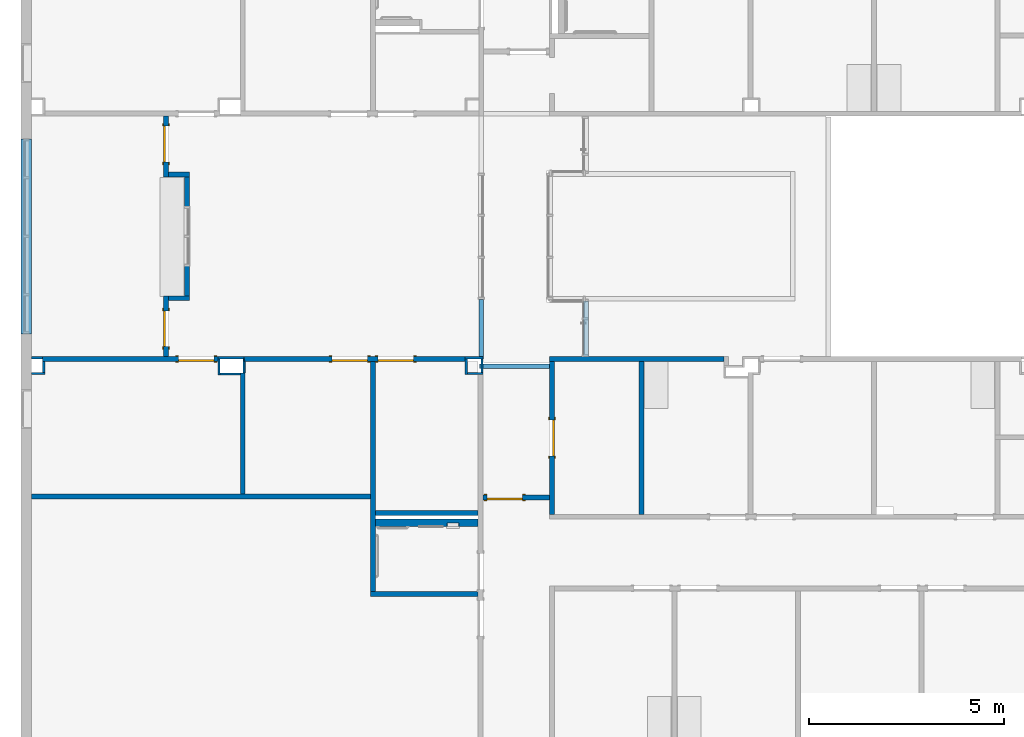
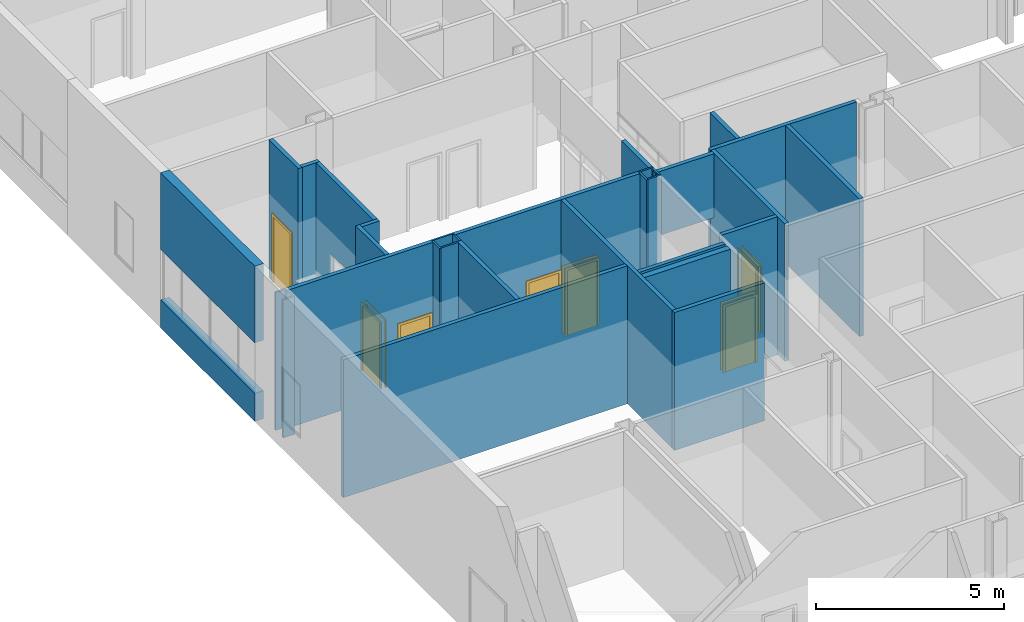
# One storey, part 26 of 82: 33 walls, 7 doors, 9 openings.
"""IFC2X3 building model written with IfcOpenShell, lengths in metres."""

from ifc_helpers import new_model, entity, si_unit, converted_unit, frame, frame_2d, origin, origin_2d_with_axis, place, context, project, spatial, polyline, rectangle, outline, extrude, source, transform, mapped, material, layer, layer_set, layer_usage, type_object, type_shapes, element, fill, save


model = new_model("IFC2X3")

# Units and contexts
model_context = context("Model", 3, precision=1e-09, world=origin())
plan_context = context("Plan", 3, precision=1e-09, world=origin())
ifc_project = project(units=[si_unit("LENGTHUNIT", "METRE"), si_unit("AREAUNIT", "SQUARE_METRE"), si_unit("VOLUMEUNIT", "CUBIC_METRE"), converted_unit("PLANEANGLEUNIT", "DEGREE", entity("IfcRatioMeasure", 0.01745329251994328), si_unit("PLANEANGLEUNIT", "RADIAN"), dimensions=[0, 0, 0, 0, 0, 0, 0]), si_unit("TIMEUNIT", "SECOND")], contexts=[model_context, plan_context])

# Site, building, storey
site_placement = place(None, origin())
site = spatial("IfcSite", under=ifc_project, at=site_placement, Name="Default", CompositionType="ELEMENT")
building_placement = place(site_placement, origin())
building = spatial("IfcBuilding", under=site, at=building_placement, CompositionType="ELEMENT")
storey_placement = place(building_placement, origin())
storey = spatial("IfcBuildingStorey", under=building, at=storey_placement, Name="First Floor", CompositionType="ELEMENT", Elevation=-3.531500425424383e-13)

# Wall, opening, door
ifc_material_1 = material(Name="Plasterboard")
ifc_layer_1 = layer(ifc_material_1, 0.016)
ifc_material_2 = material(Name="Metal - Stud Layer")
ifc_layer_2 = layer(ifc_material_2, 0.092)
ifc_layer_3 = layer(ifc_material_1, 0.016)
ifc_layer_set_1 = layer_set([ifc_layer_1, ifc_layer_2, ifc_layer_3], Name="Basic Wall:Interior - Partition (92mm Stud)")
ifc_layer_usage_1 = layer_usage(ifc_layer_set_1, "AXIS2", "NEGATIVE", 0.062)
wall_1_placement = place(storey_placement, frame((-51.72400000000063, 28.54799999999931, 0.0)))
wall_1 = element("IfcWallStandardCase", 1, at=wall_1_placement, inside=storey, material=ifc_layer_usage_1, Name="Basic Wall:Interior - Partition (92mm Stud)", ObjectType="Basic Wall:Interior - Partition (92mm Stud)", context=model_context, shape_type="SweptSolid", body=[
    extrude(rectangle(XDim=4.494000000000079, YDim=0.1239999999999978, at=frame_2d((2.247000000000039, 0.0), x_axis=(-1.0, 0.0))), origin(), (0.0, 0.0, 1.0), 4.46800000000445),
])
opening_1_placement = place(wall_1_placement, frame((4.394000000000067, 0.06199999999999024, 0.0)))
opening_1 = element("IfcOpeningElement", 2, at=opening_1_placement, cuts=wall_1, Name="M_Single-Flush:0915 x 2134mm:0915 x 2134mm:1", ObjectType="Opening", context=model_context, shape_type="SweptSolid", body=[
    extrude(rectangle(XDim=0.9149999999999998, YDim=2.134, at=frame_2d((1.067, 0.4574999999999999), x_axis=(0.0, -1.0))), frame((0.0, 0.0, 0.0), z_axis=(0.0, -1.0, 0.0), x_axis=(0.0, 0.0, 1.0)), (0.0, 0.0, 1.0), 0.124),
])
door_style_1 = type_object("IfcDoorStyle", Name="0915 x 2134mm", ConstructionType="NOTDEFINED", OperationType="SINGLE_SWING_LEFT", ParameterTakesPrecedence=False, Sizeable=False)
shared_shape_1 = source(origin(), model_context, "Body", "SweptSolid", [
    extrude(outline(polyline([(-0.5335, -1.123999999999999), (0.5334999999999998, -1.123999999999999), (0.5334999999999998, 1.086), (0.4574999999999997, 1.086), (0.4574999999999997, -1.048000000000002), (-0.4574999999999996, -1.048000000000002), (-0.4574999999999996, 1.086), (-0.5335, 1.086), (-0.5335, -1.123999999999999)])), frame((0.4575000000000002, 0.1489999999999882, 1.086), z_axis=(0.0, -1.0, 0.0), x_axis=(-1.0, 0.0, 0.0)), (0.0, 0.0, 1.0), 0.02499999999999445),
    extrude(outline(polyline([(-1.123999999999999, -0.5334999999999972), (1.085999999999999, -0.5334999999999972), (1.085999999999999, -0.4575000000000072), (-1.048, -0.4575000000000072), (-1.048, 0.4575000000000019), (1.085999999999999, 0.4575000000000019), (1.085999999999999, 0.5335000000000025), (-1.123999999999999, 0.5335000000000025), (-1.123999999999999, -0.5334999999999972)])), frame((0.4574999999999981, 0.0, 1.085999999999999), z_axis=(0.0, -1.0, 0.0), x_axis=(0.0, 0.0, -1.0)), (0.0, 0.0, 1.0), 0.02500000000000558),
    extrude(rectangle(XDim=0.9149999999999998, YDim=0.051, at=origin_2d_with_axis()), frame((0.4575000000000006, 0.09849999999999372, 0.0)), (0.0, 0.0, 1.0), 2.133999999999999),
])
type_shapes(door_style_1, [shared_shape_1])
door_1_placement = place(opening_1_placement, frame((0.0, 0.0, 0.0), z_axis=(0.0, 0.0, 1.0), x_axis=(-1.0, 0.0, 0.0)))
door_1 = element("IfcDoor", 3, at=door_1_placement, inside=storey, type_object=door_style_1, Name="M_Single-Flush:0915 x 2134mm:0915 x 2134mm", ObjectType="0915 x 2134mm", OverallHeight=2.134, OverallWidth=0.9149999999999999, context=model_context, shape_type="MappedRepresentation", body=[
    mapped(shared_shape_1, transform((0.0, 0.0, 0.0), scale=1.0)),
])
fill(opening_1, door_1)

# Wall
wall_2_placement = place(storey_placement, frame((-43.24800000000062, 22.58399999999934, 0.0), z_axis=(0.0, 0.0, 1.0), x_axis=(0.0, 1.0, 0.0)))
element("IfcWallStandardCase", 4, at=wall_2_placement, inside=storey, material=ifc_layer_usage_1, Name="Basic Wall:Interior - Partition (92mm Stud)", ObjectType="Basic Wall:Interior - Partition (92mm Stud)", context=model_context, shape_type="SweptSolid", body=[
    extrude(rectangle(XDim=5.901999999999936, YDim=0.1240000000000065, at=frame_2d((2.950999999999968, 0.0), x_axis=(-1.0, 0.0))), origin(), (0.0, 0.0, 1.0), 4.468000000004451),
])

# Wall, openings, doors
wall_3_placement = place(storey_placement, frame((-46.55700000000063, 28.54799999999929, 0.0)))
wall_3 = element("IfcWallStandardCase", 5, at=wall_3_placement, inside=storey, material=ifc_layer_usage_1, Name="Basic Wall:Interior - Partition (92mm Stud)", ObjectType="Basic Wall:Interior - Partition (92mm Stud)", context=model_context, shape_type="SweptSolid", body=[
    extrude(rectangle(XDim=5.670499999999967, YDim=0.1239999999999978, at=frame_2d((2.835249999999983, 0.0), x_axis=(-1.0, 0.0))), origin(), (0.0, 0.0, 1.0), 4.468000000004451),
])
opening_2_placement = place(wall_3_placement, frame((4.346000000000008, 0.06199999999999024, 0.0)))
opening_2 = element("IfcOpeningElement", 6, at=opening_2_placement, cuts=wall_3, Name=":1", ObjectType="Opening", context=model_context, shape_type="SweptSolid", body=[
    extrude(rectangle(XDim=0.9149999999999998, YDim=2.134, at=frame_2d((1.067, 0.4575), x_axis=(0.0, 1.0))), frame((0.0, 0.0, 0.0), z_axis=(0.0, -1.0, 0.0), x_axis=(0.0, 0.0, 1.0)), (0.0, 0.0, 1.0), 0.124),
])
opening_3_placement = place(wall_3_placement, frame((3.167000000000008, 0.06199999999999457, 0.0)))
opening_3 = element("IfcOpeningElement", 7, at=opening_3_placement, cuts=wall_3, Name=":1", ObjectType="Opening", context=model_context, shape_type="SweptSolid", body=[
    extrude(rectangle(XDim=0.9149999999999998, YDim=2.134, at=frame_2d((1.067, 0.4574999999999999), x_axis=(0.0, -1.0))), frame((0.0, 0.0, 0.0), z_axis=(0.0, -1.0, 0.0), x_axis=(0.0, 0.0, 1.0)), (0.0, 0.0, 1.0), 0.124),
])
door_style_2 = type_object("IfcDoorStyle", Name="0915 x 2134mm", ConstructionType="NOTDEFINED", OperationType="SINGLE_SWING_RIGHT", ParameterTakesPrecedence=False, Sizeable=False)
shared_shape_2 = source(origin(), model_context, "Body", "SweptSolid", [
    extrude(outline(polyline([(-0.5335, -1.123999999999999), (0.5334999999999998, -1.123999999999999), (0.5334999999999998, 1.086), (0.4574999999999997, 1.086), (0.4574999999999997, -1.048000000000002), (-0.4574999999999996, -1.048000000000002), (-0.4574999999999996, 1.086), (-0.5335, 1.086), (-0.5335, -1.123999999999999)])), frame((0.4575000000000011, 0.1239999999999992, 1.086), z_axis=(0.0, 1.0, 0.0), x_axis=(1.0, 0.0, 0.0)), (0.0, 0.0, 1.0), 0.02499999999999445),
    extrude(outline(polyline([(-1.123999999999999, -0.5334999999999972), (1.085999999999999, -0.5334999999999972), (1.085999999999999, -0.4575000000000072), (-1.048, -0.4575000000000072), (-1.048, 0.4575000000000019), (1.085999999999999, 0.4575000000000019), (1.085999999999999, 0.5335000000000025), (-1.123999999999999, 0.5335000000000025), (-1.123999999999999, -0.5334999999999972)])), frame((0.4575000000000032, -0.02500000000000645, 1.085999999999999), z_axis=(0.0, 1.0, 0.0), x_axis=(0.0, 0.0, -1.0)), (0.0, 0.0, 1.0), 0.02500000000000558),
    extrude(rectangle(XDim=0.051, YDim=0.9149999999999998, at=origin_2d_with_axis()), frame((0.4575000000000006, 0.09849999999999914, 0.0), z_axis=(0.0, 0.0, 1.0), x_axis=(0.0, 1.0, 0.0)), (0.0, 0.0, 1.0), 2.133999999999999),
])
type_shapes(door_style_2, [shared_shape_2])
door_2_placement = place(opening_2_placement, frame((0.0, 0.0, 0.0), z_axis=(0.0, 0.0, 1.0), x_axis=(-1.0, 0.0, 0.0)))
door_2 = element("IfcDoor", 8, at=door_2_placement, inside=storey, type_object=door_style_2, Name="M_Single-Flush:0915 x 2134mm:0915 x 2134mm", ObjectType="0915 x 2134mm", OverallHeight=2.134, OverallWidth=0.9149999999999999, context=model_context, shape_type="MappedRepresentation", body=[
    mapped(shared_shape_2, transform((0.0, 0.0, 0.0), scale=1.0)),
])
fill(opening_2, door_2)
door_3_placement = place(opening_3_placement, frame((0.0, 0.0, 0.0), z_axis=(0.0, 0.0, 1.0), x_axis=(-1.0, 0.0, 0.0)))
door_3 = element("IfcDoor", 9, at=door_3_placement, inside=storey, type_object=door_style_1, Name="M_Single-Flush:0915 x 2134mm:0915 x 2134mm", ObjectType="0915 x 2134mm", OverallHeight=2.134, OverallWidth=0.9149999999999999, context=model_context, shape_type="MappedRepresentation", body=[
    mapped(shared_shape_1, transform((0.0, 0.0, 0.0), scale=1.0)),
])
fill(opening_3, door_3)

# Wall, opening, door
wall_4_placement = place(storey_placement, frame((-38.65800000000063, 24.56399999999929, 0.0), z_axis=(0.0, 0.0, 1.0), x_axis=(0.0, 1.0, 0.0)))
wall_4 = element("IfcWallStandardCase", 10, at=wall_4_placement, inside=storey, material=ifc_layer_usage_1, Name="Basic Wall:Interior - Partition (92mm Stud)", ObjectType="Basic Wall:Interior - Partition (92mm Stud)", context=model_context, shape_type="SweptSolid", body=[
    extrude(rectangle(XDim=3.922000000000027, YDim=0.1239999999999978, at=frame_2d((1.961000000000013, 0.0), x_axis=(-1.0, 0.0))), origin(), (0.0, 0.0, 1.0), 4.46800000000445),
])
opening_4_placement = place(wall_4_placement, frame((2.418500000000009, 0.06199999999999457, 0.0)))
opening_4 = element("IfcOpeningElement", 11, at=opening_4_placement, cuts=wall_4, Name="M_Single-Flush:0915 x 2134mm:0915 x 2134mm:1", ObjectType="Opening", context=model_context, shape_type="SweptSolid", body=[
    extrude(rectangle(XDim=0.9149999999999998, YDim=2.134, at=frame_2d((1.067, 0.4575), x_axis=(0.0, 1.0))), frame((0.0, 0.0, 0.0), z_axis=(0.0, -1.0, 0.0), x_axis=(0.0, 0.0, 1.0)), (0.0, 0.0, 1.0), 0.124),
])
door_4_placement = place(opening_4_placement, frame((0.0, 0.0, 0.0), z_axis=(0.0, 0.0, 1.0), x_axis=(-1.0, 0.0, 0.0)))
door_4 = element("IfcDoor", 12, at=door_4_placement, inside=storey, type_object=door_style_2, Name="M_Single-Flush:0915 x 2134mm:0915 x 2134mm", ObjectType="0915 x 2134mm", OverallHeight=2.134, OverallWidth=0.9149999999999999, context=model_context, shape_type="MappedRepresentation", body=[
    mapped(shared_shape_2, transform((0.0, 0.0, 0.0), scale=1.0)),
])
fill(opening_4, door_4)

# Walls
wall_5_placement = place(storey_placement, frame((-38.72000000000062, 28.54799999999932, 0.0)))
element("IfcWallStandardCase", 13, at=wall_5_placement, inside=storey, material=ifc_layer_usage_1, Name="Basic Wall:Interior - Partition (92mm Stud)", ObjectType="Basic Wall:Interior - Partition (92mm Stud)", context=model_context, shape_type="SweptSolid", body=[
    extrude(rectangle(XDim=4.465999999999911, YDim=0.1239999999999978, at=frame_2d((2.232999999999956, 0.0), x_axis=(-1.0, 0.0))), origin(), (0.0, 0.0, 1.0), 4.46800000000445),
])
ifc_material_3 = material(Name="Insulation - Insulated Panel")
ifc_layer_4 = layer(ifc_material_3, 0.042)
ifc_material_4 = material(Name="Metal - Firring")
ifc_layer_5 = layer(ifc_material_4, 0.038)
ifc_material_5 = material(Name="Wood - Sheathing - plywood")
ifc_layer_6 = layer(ifc_material_5, 0.019)
ifc_layer_7 = layer(ifc_material_2, 0.152)
ifc_layer_8 = layer(ifc_material_1, 0.016)
ifc_layer_set_2 = layer_set([ifc_layer_4, ifc_layer_5, ifc_layer_6, ifc_layer_7, ifc_layer_8], Name="Basic Wall:Exterior - Insul Panel on Mtl. Stud")
ifc_layer_usage_2 = layer_usage(ifc_layer_set_2, "AXIS2", "NEGATIVE", 0.1335)
wall_6_placement = place(storey_placement, frame((-52.14650000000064, 29.19495592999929, 0.0), z_axis=(0.0, 0.0, 1.0), x_axis=(0.0, 1.0, 0.0)))
element("IfcWallStandardCase", 14, at=wall_6_placement, inside=storey, material=ifc_layer_usage_2, Name="Basic Wall:Exterior - Insul Panel on Mtl. Stud", ObjectType="Basic Wall:Exterior - Insul Panel on Mtl. Stud", context=model_context, shape_type="SweptSolid", body=[
    extrude(rectangle(XDim=4.999999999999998, YDim=0.2670000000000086, at=frame_2d((2.499999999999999, 0.0), x_axis=(-1.0, 0.0))), origin(), (0.0, 0.0, 1.0), 0.905),
])
wall_7_placement = place(storey_placement, frame((-52.14650000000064, 29.19495592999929, 2.54), z_axis=(0.0, 0.0, 1.0), x_axis=(0.0, 1.0, 0.0)))
element("IfcWallStandardCase", 15, at=wall_7_placement, inside=storey, material=ifc_layer_usage_2, Name="Basic Wall:Exterior - Insul Panel on Mtl. Stud", ObjectType="Basic Wall:Exterior - Insul Panel on Mtl. Stud", context=model_context, shape_type="SweptSolid", body=[
    extrude(rectangle(XDim=4.999999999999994, YDim=0.2670000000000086, at=frame_2d((2.499999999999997, 0.0), x_axis=(-1.0, 0.0))), origin(), (0.0, 0.0, 1.0), 2.48700000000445),
])
wall_8_placement = place(storey_placement, frame((-43.31000000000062, 25.02199999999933, 0.0), z_axis=(0.0, 0.0, 1.0), x_axis=(-1.0, 0.0, 0.0)))
element("IfcWallStandardCase", 16, at=wall_8_placement, inside=storey, material=ifc_layer_usage_1, Name="Basic Wall:Interior - Partition (92mm Stud)", ObjectType="Basic Wall:Interior - Partition (92mm Stud)", context=model_context, shape_type="SweptSolid", body=[
    extrude(rectangle(XDim=8.703000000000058, YDim=0.1239999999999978, at=frame_2d((4.351500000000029, 0.0), x_axis=(-1.0, 0.0))), origin(), (0.0, 0.0, 1.0), 4.46800000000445),
])
wall_9_placement = place(storey_placement, frame((-46.59200000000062, 28.19599999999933, 0.0), z_axis=(0.0, 0.0, 1.0), x_axis=(0.0, -1.0, 0.0)))
element("IfcWallStandardCase", 17, at=wall_9_placement, inside=storey, material=ifc_layer_usage_1, Name="Basic Wall:Interior - Partition (92mm Stud)", ObjectType="Basic Wall:Interior - Partition (92mm Stud)", context=model_context, shape_type="SweptSolid", body=[
    extrude(rectangle(XDim=3.11199999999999, YDim=0.1240000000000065, at=frame_2d((1.555999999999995, 0.0), x_axis=(-1.0, 0.0))), origin(), (0.0, 0.0, 1.0), 4.468000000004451),
])
ifc_layer_9 = layer(ifc_material_2, 0.038)
ifc_layer_10 = layer(ifc_material_1, 0.016)
ifc_layer_set_3 = layer_set([ifc_layer_9, ifc_layer_10], Name="Basic Wall:Interior - Furring (38 mm Stud)")
ifc_layer_usage_3 = layer_usage(ifc_layer_set_3, "AXIS2", "NEGATIVE", 0.027)
wall_10_placement = place(storey_placement, frame((-40.45700000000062, 28.20399999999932, 0.0), z_axis=(0.0, 0.0, 1.0), x_axis=(0.0, 1.0, 0.0)))
element("IfcWallStandardCase", 18, at=wall_10_placement, inside=storey, material=ifc_layer_usage_3, Name="Basic Wall:Interior - Furring (38 mm Stud)", ObjectType="Basic Wall:Interior - Furring (38 mm Stud)", context=model_context, shape_type="SweptSolid", body=[
    extrude(rectangle(XDim=0.3519999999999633, YDim=0.05400000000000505, at=frame_2d((0.1759999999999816, 0.0), x_axis=(-1.0, 0.0))), origin(), (0.0, 0.0, 1.0), 4.46800000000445),
])
wall_11_placement = place(storey_placement, frame((-46.55700000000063, 28.19599999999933, 0.0), z_axis=(0.0, 0.0, 1.0), x_axis=(0.0, 1.0, 0.0)))
element("IfcWallStandardCase", 19, at=wall_11_placement, inside=storey, material=ifc_layer_usage_3, Name="Basic Wall:Interior - Furring (38 mm Stud)", ObjectType="Basic Wall:Interior - Furring (38 mm Stud)", context=model_context, shape_type="SweptSolid", body=[
    extrude(outline(polyline([(0.2899999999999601, -0.02699999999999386), (0.2899999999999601, 0.0), (0.3599999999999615, 0.0), (0.3599999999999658, 0.02700000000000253), (0.0, 0.02700000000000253), (0.0, -0.02699999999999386), (0.2899999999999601, -0.02699999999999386)])), origin(), (0.0, 0.0, 1.0), 4.468000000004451),
])
wall_12_placement = place(storey_placement, frame((-46.55700000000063, 28.5829999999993, 0.0), z_axis=(0.0, 0.0, 1.0), x_axis=(-1.0, 0.0, 0.0)))
element("IfcWallStandardCase", 20, at=wall_12_placement, inside=storey, material=ifc_layer_usage_3, Name="Basic Wall:Interior - Furring (38 mm Stud)", ObjectType="Basic Wall:Interior - Furring (38 mm Stud)", context=model_context, shape_type="SweptSolid", body=[
    extrude(rectangle(XDim=0.6729999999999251, YDim=0.05399999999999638, at=frame_2d((0.3364999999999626, 0.0), x_axis=(-1.0, 0.0))), origin(), (0.0, 0.0, 1.0), 4.468000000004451),
])

# Wall, opening, door
wall_13_placement = place(storey_placement, frame((-40.43000000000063, 24.99639999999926, 0.0)))
wall_13 = element("IfcWallStandardCase", 21, at=wall_13_placement, inside=storey, material=ifc_layer_usage_1, Name="Basic Wall:Interior - Partition (92mm Stud)", ObjectType="Basic Wall:Interior - Partition (92mm Stud)", context=model_context, shape_type="SweptSolid", body=[
    extrude(rectangle(XDim=1.71000000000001, YDim=0.1239999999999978, at=frame_2d((0.8550000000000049, 0.0), x_axis=(-1.0, 0.0))), origin(), (0.0, 0.0, 1.0), 4.46800000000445),
])
opening_5_placement = place(wall_13_placement, frame((1.015000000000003, 0.06200000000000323, 0.0)))
opening_5 = element("IfcOpeningElement", 22, at=opening_5_placement, cuts=wall_13, Name="M_Single-Flush:0915 x 2134mm:0915 x 2134mm:1", ObjectType="Opening", context=model_context, shape_type="SweptSolid", body=[
    extrude(rectangle(XDim=0.9149999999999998, YDim=2.134, at=frame_2d((1.067, 0.4575), x_axis=(0.0, 1.0))), frame((0.0, 0.0, 0.0), z_axis=(0.0, -1.0, 0.0), x_axis=(0.0, 0.0, 1.0)), (0.0, 0.0, 1.0), 0.124),
])
door_5_placement = place(opening_5_placement, frame((0.0, 0.0, 0.0), z_axis=(0.0, 0.0, 1.0), x_axis=(-1.0, 0.0, 0.0)))
door_5 = element("IfcDoor", 23, at=door_5_placement, inside=storey, type_object=door_style_2, Name="M_Single-Flush:0915 x 2134mm:0915 x 2134mm", ObjectType="0915 x 2134mm", OverallHeight=2.134, OverallWidth=0.9149999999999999, context=model_context, shape_type="MappedRepresentation", body=[
    mapped(shared_shape_2, transform((0.0, 0.0, 0.0), scale=1.0)),
])
fill(opening_5, door_5)

# Wall, opening
wall_14_placement = place(storey_placement, frame((-48.02299986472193, 30.16999999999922, 0.0), z_axis=(0.0, 0.0, 1.0), x_axis=(0.0, 1.0, 0.0)))
wall_14 = element("IfcWallStandardCase", 24, at=wall_14_placement, inside=storey, material=ifc_layer_usage_1, Name="Basic Wall:Interior - Partition (92mm Stud)", ObjectType="Basic Wall:Interior - Partition (92mm Stud)", context=model_context, shape_type="SweptSolid", body=[
    extrude(rectangle(XDim=3.05, YDim=0.1240000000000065, at=frame_2d((1.525, 0.0), x_axis=(-1.0, 0.0))), origin(), (0.0, 0.0, 1.0), 4.46800000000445),
])
opening_6_placement = place(wall_14_placement, origin())
element("IfcOpeningElement", 25, at=opening_6_placement, cuts=wall_14, ObjectType="Opening", context=model_context, shape_type="SweptSolid", body=[
    extrude(rectangle(XDim=0.9999999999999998, YDim=1.534000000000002, at=frame_2d((0.0, 0.0), x_axis=(0.0, 1.0))), frame((1.527000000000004, -0.2143999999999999, 1.5), z_axis=(0.0, 1.0, 0.0), x_axis=(-1.0, 0.0, 0.0)), (0.0, 0.0, 1.0), 0.4287999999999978),
])

# Walls
wall_15_placement = place(storey_placement, frame((-40.83250000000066, 28.17699999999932, 0.0)))
element("IfcWallStandardCase", 26, at=wall_15_placement, inside=storey, material=ifc_layer_usage_3, Name="Basic Wall:Interior - Furring (38 mm Stud)", ObjectType="Basic Wall:Interior - Furring (38 mm Stud)", context=model_context, shape_type="SweptSolid", body=[
    extrude(rectangle(XDim=0.4025000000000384, YDim=0.05399999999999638, at=frame_2d((0.2012500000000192, 0.0), x_axis=(-1.0, 0.0))), origin(), (0.0, 0.0, 1.0), 4.46800000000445),
])
wall_16_placement = place(storey_placement, frame((-47.20300000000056, 28.5559999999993, 0.0), z_axis=(0.0, 0.0, 1.0), x_axis=(0.0, -1.0, 0.0)))
element("IfcWallStandardCase", 27, at=wall_16_placement, inside=storey, material=ifc_layer_usage_3, Name="Basic Wall:Interior - Furring (38 mm Stud)", ObjectType="Basic Wall:Interior - Furring (38 mm Stud)", context=model_context, shape_type="SweptSolid", body=[
    extrude(rectangle(XDim=0.4139999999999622, YDim=0.05400000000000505, at=frame_2d((0.2069999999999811, 0.0), x_axis=(-1.0, 0.0))), origin(), (0.0, 0.0, 1.0), 4.46800000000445),
])

# Wall, opening, door
wall_17_placement = place(storey_placement, frame((-48.56300000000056, 33.21999999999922, 0.0), z_axis=(0.0, 0.0, 1.0), x_axis=(0.0, 1.0, 0.0)))
wall_17 = element("IfcWallStandardCase", 28, at=wall_17_placement, inside=storey, material=ifc_layer_usage_1, Name="Basic Wall:Interior - Partition (92mm Stud)", ObjectType="Basic Wall:Interior - Partition (92mm Stud)", context=model_context, shape_type="SweptSolid", body=[
    extrude(rectangle(XDim=1.560000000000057, YDim=0.1240000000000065, at=frame_2d((0.7800000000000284, 0.0), x_axis=(-1.0, 0.0))), origin(), (0.0, 0.0, 1.0), 4.46800000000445),
])
opening_7_placement = place(wall_17_placement, frame((0.3845000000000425, -0.06200000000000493, 0.0)))
opening_7 = element("IfcOpeningElement", 29, at=opening_7_placement, cuts=wall_17, Name="M_Single-Flush:0915 x 2134mm:0915 x 2134mm:1", ObjectType="Opening", context=model_context, shape_type="SweptSolid", body=[
    extrude(rectangle(XDim=0.9149999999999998, YDim=2.134, at=frame_2d((1.067, 0.4575), x_axis=(0.0, 1.0))), frame((0.0, 0.0, 0.0), z_axis=(0.0, 1.0, 0.0), x_axis=(0.0, 0.0, 1.0)), (0.0, 0.0, 1.0), 0.124),
])
door_6_placement = place(opening_7_placement, origin())
door_6 = element("IfcDoor", 30, at=door_6_placement, inside=storey, type_object=door_style_2, Name="M_Single-Flush:0915 x 2134mm:0915 x 2134mm", ObjectType="0915 x 2134mm", OverallHeight=2.134, OverallWidth=0.9149999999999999, context=model_context, shape_type="MappedRepresentation", body=[
    mapped(shared_shape_2, transform((0.0, 0.0, 0.0), scale=1.0)),
])
fill(opening_7, door_6)

wall_18_placement = place(storey_placement, frame((-48.56300000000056, 28.6099999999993, 0.0), z_axis=(0.0, 0.0, 1.0), x_axis=(0.0, 1.0, 0.0)))
wall_18 = element("IfcWallStandardCase", 31, at=wall_18_placement, inside=storey, material=ifc_layer_usage_1, Name="Basic Wall:Interior - Partition (92mm Stud)", ObjectType="Basic Wall:Interior - Partition (92mm Stud)", context=model_context, shape_type="SweptSolid", body=[
    extrude(rectangle(XDim=1.559999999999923, YDim=0.1240000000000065, at=frame_2d((0.7799999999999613, 0.0), x_axis=(-1.0, 0.0))), origin(), (0.0, 0.0, 1.0), 4.46800000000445),
])
opening_8_placement = place(wall_18_placement, frame((0.2604999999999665, -0.06200000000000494, 0.0)))
opening_8 = element("IfcOpeningElement", 32, at=opening_8_placement, cuts=wall_18, Name="M_Single-Flush:0915 x 2134mm:0915 x 2134mm:1", ObjectType="Opening", context=model_context, shape_type="SweptSolid", body=[
    extrude(rectangle(XDim=0.9149999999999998, YDim=2.134, at=frame_2d((1.067, 0.4575000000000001), x_axis=(0.0, -1.0))), frame((0.0, 0.0, 0.0), z_axis=(0.0, 1.0, 0.0), x_axis=(0.0, 0.0, 1.0)), (0.0, 0.0, 1.0), 0.124),
])
door_7_placement = place(opening_8_placement, origin())
door_7 = element("IfcDoor", 33, at=door_7_placement, inside=storey, type_object=door_style_1, Name="M_Single-Flush:0915 x 2134mm:0915 x 2134mm", ObjectType="0915 x 2134mm", OverallHeight=2.134, OverallWidth=0.9149999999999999, context=model_context, shape_type="MappedRepresentation", body=[
    mapped(shared_shape_1, transform((0.0, 0.0, 0.0), scale=1.0)),
])
fill(opening_8, door_7)

# Walls
wall_19_placement = place(storey_placement, frame((-51.72400000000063, 28.58299999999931, 0.0), z_axis=(0.0, 0.0, 1.0), x_axis=(-1.0, 0.0, 0.0)))
element("IfcWallStandardCase", 34, at=wall_19_placement, inside=storey, material=ifc_layer_usage_3, Name="Basic Wall:Interior - Furring (38 mm Stud)", ObjectType="Basic Wall:Interior - Furring (38 mm Stud)", context=model_context, shape_type="SweptSolid", body=[
    extrude(rectangle(XDim=0.2890000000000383, YDim=0.05399999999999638, at=frame_2d((0.1445000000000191, 0.0), x_axis=(-1.0, 0.0))), origin(), (0.0, 0.0, 1.0), 4.46800000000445),
])
wall_20_placement = place(storey_placement, frame((-40.43000000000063, 28.58299999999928, 0.0), z_axis=(0.0, 0.0, 1.0), x_axis=(-1.0, 0.0, 0.0)))
element("IfcWallStandardCase", 35, at=wall_20_placement, inside=storey, material=ifc_layer_usage_3, Name="Basic Wall:Interior - Furring (38 mm Stud)", ObjectType="Basic Wall:Interior - Furring (38 mm Stud)", context=model_context, shape_type="SweptSolid", body=[
    extrude(rectangle(XDim=0.4565000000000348, YDim=0.05400000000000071, at=frame_2d((0.2282500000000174, 0.0), x_axis=(-1.0, 0.0))), origin(), (0.0, 0.0, 1.0), 4.46800000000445),
])
wall_21_placement = place(storey_placement, frame((-47.17600000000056, 28.16899999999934, 0.0)))
element("IfcWallStandardCase", 36, at=wall_21_placement, inside=storey, material=ifc_layer_usage_3, Name="Basic Wall:Interior - Furring (38 mm Stud)", ObjectType="Basic Wall:Interior - Furring (38 mm Stud)", context=model_context, shape_type="SweptSolid", body=[
    extrude(rectangle(XDim=0.5219999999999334, YDim=0.05399999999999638, at=frame_2d((0.2609999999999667, 0.0), x_axis=(-1.0, 0.0))), origin(), (0.0, 0.0, 1.0), 4.46800000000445),
])
wall_22_placement = place(storey_placement, frame((-51.69700000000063, 28.20399999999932, 0.0), z_axis=(0.0, 0.0, 1.0), x_axis=(0.0, 1.0, 0.0)))
element("IfcWallStandardCase", 37, at=wall_22_placement, inside=storey, material=ifc_layer_usage_3, Name="Basic Wall:Interior - Furring (38 mm Stud)", ObjectType="Basic Wall:Interior - Furring (38 mm Stud)", context=model_context, shape_type="SweptSolid", body=[
    extrude(rectangle(XDim=0.2819999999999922, YDim=0.05400000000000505, at=frame_2d((0.1409999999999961, 0.0), x_axis=(-1.0, 0.0))), origin(), (0.0, 0.0, 1.0), 4.46800000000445),
])

# Wall, opening
ifc_layer_11 = layer(ifc_material_1, 0.016)
ifc_layer_12 = layer(ifc_material_2, 0.152)
ifc_layer_13 = layer(ifc_material_1, 0.016)
ifc_layer_set_4 = layer_set([ifc_layer_11, ifc_layer_12, ifc_layer_13], Name="Basic Wall:Interior - Plumbing (152mm Stud)")
ifc_layer_usage_4 = layer_usage(ifc_layer_set_4, "AXIS2", "NEGATIVE", 0.092)
wall_23_placement = place(storey_placement, frame((-40.55400000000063, 24.3519999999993, 0.0), z_axis=(0.0, 0.0, 1.0), x_axis=(-1.0, 0.0, 0.0)))
wall_23 = element("IfcWallStandardCase", 38, at=wall_23_placement, inside=storey, material=ifc_layer_usage_4, Name="Basic Wall:Interior - Plumbing (152mm Stud)", ObjectType="Basic Wall:Interior - Plumbing (152mm Stud)", context=model_context, shape_type="SweptSolid", body=[
    extrude(rectangle(XDim=2.631999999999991, YDim=0.1840000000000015, at=frame_2d((1.315999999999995, 0.0), x_axis=(-1.0, 0.0))), origin(), (0.0, 0.0, 1.0), 4.46800000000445),
])
opening_9_placement = place(wall_23_placement, origin())
element("IfcOpeningElement", 39, at=opening_9_placement, cuts=wall_23, ObjectType="Opening", context=model_context, shape_type="SweptSolid", body=[
    extrude(rectangle(XDim=1.362075, YDim=0.2984499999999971, at=frame_2d((0.0, 0.0), x_axis=(0.0, 1.0))), frame((0.6450999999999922, 0.003099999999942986, 1.041399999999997), z_axis=(0.0, 1.0, 0.0), x_axis=(1.0, 0.0, 0.0)), (0.0, 0.0, 1.0), 0.1524000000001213),
])

# Walls
wall_24_placement = place(storey_placement, frame((-40.55400000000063, 22.52199999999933, 0.0), z_axis=(0.0, 0.0, 1.0), x_axis=(-1.0, 0.0, 0.0)))
element("IfcWallStandardCase", 40, at=wall_24_placement, inside=storey, material=ifc_layer_usage_1, Name="Basic Wall:Interior - Partition (92mm Stud)", ObjectType="Basic Wall:Interior - Partition (92mm Stud)", context=model_context, shape_type="SweptSolid", body=[
    extrude(rectangle(XDim=2.755999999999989, YDim=0.1239999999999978, at=frame_2d((1.377999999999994, 0.0), x_axis=(-1.0, 0.0))), origin(), (0.0, 0.0, 1.0), 4.468000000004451),
])
wall_25_placement = place(storey_placement, frame((-36.36800000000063, 24.56399999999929, 0.0), z_axis=(0.0, 0.0, 1.0), x_axis=(0.0, 1.0, 0.0)))
element("IfcWallStandardCase", 41, at=wall_25_placement, inside=storey, material=ifc_layer_usage_1, Name="Basic Wall:Interior - Partition (92mm Stud)", ObjectType="Basic Wall:Interior - Partition (92mm Stud)", context=model_context, shape_type="SweptSolid", body=[
    extrude(rectangle(XDim=3.922000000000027, YDim=0.1239999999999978, at=frame_2d((1.961000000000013, 0.0), x_axis=(-1.0, 0.0))), origin(), (0.0, 0.0, 1.0), 4.46800000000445),
])
wall_26_placement = place(storey_placement, frame((-40.85950000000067, 28.55599999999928, 0.0), z_axis=(0.0, 0.0, 1.0), x_axis=(0.0, -1.0, 0.0)))
element("IfcWallStandardCase", 42, at=wall_26_placement, inside=storey, material=ifc_layer_usage_3, Name="Basic Wall:Interior - Furring (38 mm Stud)", ObjectType="Basic Wall:Interior - Furring (38 mm Stud)", context=model_context, shape_type="SweptSolid", body=[
    extrude(rectangle(XDim=0.405999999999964, YDim=0.05400000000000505, at=frame_2d((0.202999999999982, 0.0), x_axis=(-1.0, 0.0))), origin(), (0.0, 0.0, 1.0), 4.46800000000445),
])
wall_27_placement = place(storey_placement, frame((-48.50100000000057, 30.10799999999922, 0.0)))
element("IfcWallStandardCase", 43, at=wall_27_placement, inside=storey, material=ifc_layer_usage_1, Name="Basic Wall:Interior - Partition (92mm Stud)", ObjectType="Basic Wall:Interior - Partition (92mm Stud)", context=model_context, shape_type="SweptSolid", body=[
    extrude(rectangle(XDim=0.54000013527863, YDim=0.1239999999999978, at=frame_2d((0.270000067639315, 0.0), x_axis=(-1.0, 0.0))), origin(), (0.0, 0.0, 1.0), 4.46800000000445),
])
wall_28_placement = place(storey_placement, frame((-47.96099986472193, 33.28199999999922, 0.0), z_axis=(0.0, 0.0, 1.0), x_axis=(-1.0, 0.0, 0.0)))
element("IfcWallStandardCase", 44, at=wall_28_placement, inside=storey, material=ifc_layer_usage_1, Name="Basic Wall:Interior - Partition (92mm Stud)", ObjectType="Basic Wall:Interior - Partition (92mm Stud)", context=model_context, shape_type="SweptSolid", body=[
    extrude(rectangle(XDim=0.5400001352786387, YDim=0.1239999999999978, at=frame_2d((0.2700000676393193, 0.0), x_axis=(-1.0, 0.0))), origin(), (0.0, 0.0, 1.0), 4.46800000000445),
])
wall_29_placement = place(storey_placement, frame((-40.47500000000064, 30.07999999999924, 2.8), z_axis=(0.0, 0.0, 1.0), x_axis=(0.0, -1.0, 0.0)))
element("IfcWallStandardCase", 45, at=wall_29_placement, inside=storey, material=ifc_layer_usage_1, Name="Basic Wall:Interior - Partition (92mm Stud)", ObjectType="Basic Wall:Interior - Partition (92mm Stud)", context=model_context, shape_type="SweptSolid", body=[
    extrude(rectangle(XDim=1.523999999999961, YDim=0.1240000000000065, at=frame_2d((0.7619999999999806, 0.0), x_axis=(-1.0, 0.0))), origin(), (0.0, 0.0, 1.0), 1.650000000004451),
])
wall_30_placement = place(storey_placement, frame((-52.01300000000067, 28.17699999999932, 0.0)))
element("IfcWallStandardCase", 46, at=wall_30_placement, inside=storey, material=ifc_layer_usage_3, Name="Basic Wall:Interior - Furring (38 mm Stud)", ObjectType="Basic Wall:Interior - Furring (38 mm Stud)", context=model_context, shape_type="SweptSolid", body=[
    extrude(rectangle(XDim=0.3430000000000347, YDim=0.05399999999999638, at=frame_2d((0.1715000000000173, 0.0), x_axis=(-1.0, 0.0))), origin(), (0.0, 0.0, 1.0), 4.46800000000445),
])
wall_31_placement = place(storey_placement, frame((-43.18600000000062, 24.5979999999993, 0.0)))
element("IfcWallStandardCase", 47, at=wall_31_placement, inside=storey, material=ifc_layer_usage_1, Name="Basic Wall:Interior - Partition (92mm Stud)", ObjectType="Basic Wall:Interior - Partition (92mm Stud)", context=model_context, shape_type="SweptSolid", body=[
    extrude(rectangle(XDim=2.631999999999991, YDim=0.1239999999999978, at=frame_2d((1.315999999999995, 0.0), x_axis=(-1.0, 0.0))), origin(), (0.0, 0.0, 1.0), 4.46800000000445),
])
wall_32_placement = place(storey_placement, frame((-37.79200000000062, 30.03099999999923, 2.8), z_axis=(0.0, 0.0, 1.0), x_axis=(0.0, -1.0, 0.0)))
element("IfcWallStandardCase", 48, at=wall_32_placement, inside=storey, material=ifc_layer_usage_1, Name="Basic Wall:Interior - Partition (92mm Stud)", ObjectType="Basic Wall:Interior - Partition (92mm Stud)", context=model_context, shape_type="SweptSolid", body=[
    extrude(rectangle(XDim=1.420999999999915, YDim=0.1239999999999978, at=frame_2d((0.7104999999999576, 0.0), x_axis=(-1.0, 0.0))), origin(), (0.0, 0.0, 1.0), 1.650000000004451),
])
wall_33_placement = place(storey_placement, frame((-38.72000000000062, 28.3655000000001, 2.4), z_axis=(0.0, 0.0, 1.0), x_axis=(-1.0, 0.0, 0.0)))
element("IfcWallStandardCase", 49, at=wall_33_placement, inside=storey, material=ifc_layer_usage_1, Name="Basic Wall:Interior - Partition (92mm Stud)", ObjectType="Basic Wall:Interior - Partition (92mm Stud)", context=model_context, shape_type="SweptSolid", body=[
    extrude(rectangle(XDim=1.799000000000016, YDim=0.1239999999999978, at=frame_2d((0.8995000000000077, 0.0), x_axis=(-1.0, 0.0))), origin(), (0.0, 0.0, 1.0), 2.06800000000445),
])

save(model, "model.ifc")
